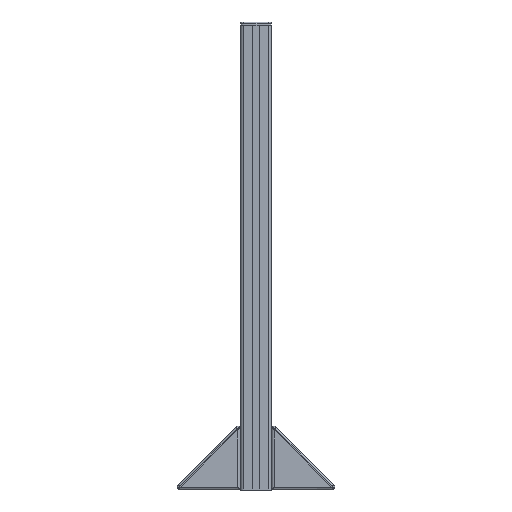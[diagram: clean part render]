
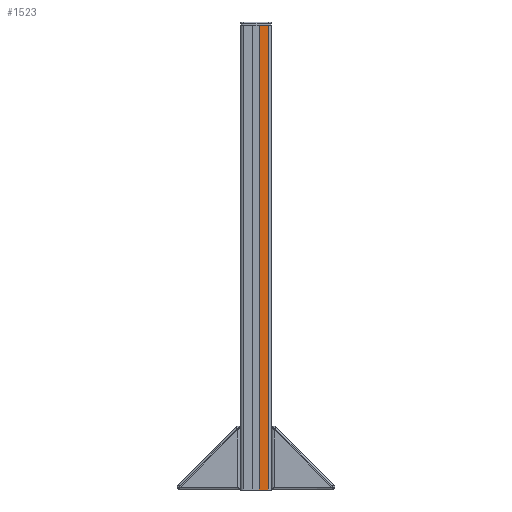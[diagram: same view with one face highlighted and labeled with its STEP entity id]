
A CAD part, left-side view. The second image highlights one B-rep face of the part: STEP entity #1523.
In plain terms, the highlighted planar face has unit normal (-1, 0, 0).
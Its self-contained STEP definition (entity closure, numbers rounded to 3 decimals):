
#1523=ADVANCED_FACE('',(#1782),#1638,.F.);
#1638=PLANE('',#5155);
#1782=FACE_OUTER_BOUND('',#1992,.T.);
#1992=EDGE_LOOP('',(#3016,#3017,#3018,#3019));
#3016=ORIENTED_EDGE('',*,*,#4351,.T.);
#3017=ORIENTED_EDGE('',*,*,#4352,.F.);
#3018=ORIENTED_EDGE('',*,*,#4300,.F.);
#3019=ORIENTED_EDGE('',*,*,#4303,.T.);
#3681=VERTEX_POINT('',#8859);
#3686=VERTEX_POINT('',#8905);
#3688=VERTEX_POINT('',#8912);
#3731=VERTEX_POINT('',#9068);
#4300=EDGE_CURVE('',#3686,#3681,#4591,.T.);
#4303=EDGE_CURVE('',#3686,#3688,#4593,.T.);
#4351=EDGE_CURVE('',#3688,#3731,#4620,.T.);
#4352=EDGE_CURVE('',#3681,#3731,#4621,.T.);
#4591=LINE('',#8906,#4820);
#4593=LINE('',#8913,#4822);
#4620=LINE('',#9067,#4849);
#4621=LINE('',#9069,#4850);
#4820=VECTOR('',#5795,1.);
#4822=VECTOR('',#5799,1.);
#4849=VECTOR('',#5872,1.);
#4850=VECTOR('',#5873,1.);
#5155=AXIS2_PLACEMENT_3D('',#9070,#5874,#5875);
#5795=DIRECTION('',(0.,-1.,0.));
#5799=DIRECTION('',(0.,0.,-1.));
#5872=DIRECTION('',(0.,-1.,0.));
#5873=DIRECTION('',(0.,0.,-1.));
#5874=DIRECTION('',(1.,0.,0.));
#5875=DIRECTION('',(0.,0.,-1.));
#8859=CARTESIAN_POINT('',(0.,4.,600.));
#8905=CARTESIAN_POINT('',(0.,16.,600.));
#8906=CARTESIAN_POINT('',(0.,15.,600.));
#8912=CARTESIAN_POINT('',(0.,16.,0.));
#8913=CARTESIAN_POINT('',(0.,16.,80.));
#9067=CARTESIAN_POINT('',(0.,15.,0.));
#9068=CARTESIAN_POINT('',(0.,4.,0.));
#9069=CARTESIAN_POINT('',(0.,4.,80.));
#9070=CARTESIAN_POINT('',(0.,15.,80.));
